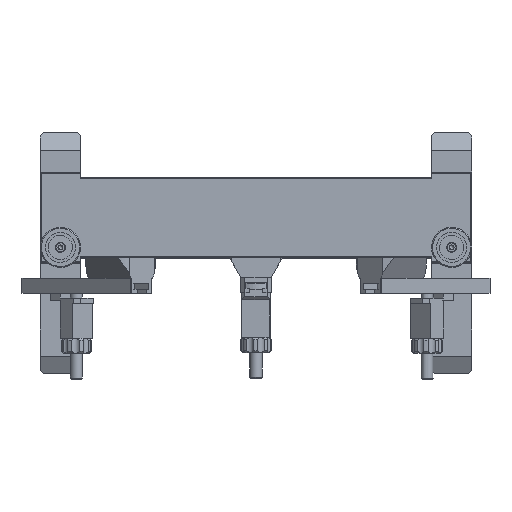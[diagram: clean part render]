
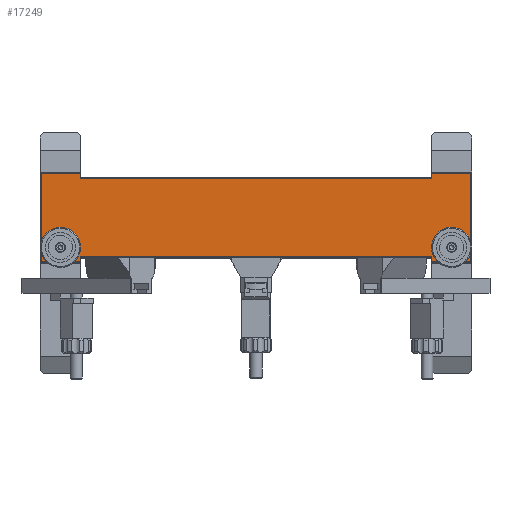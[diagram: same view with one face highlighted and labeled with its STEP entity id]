
A CAD part, top view. The second image highlights one B-rep face of the part: STEP entity #17249.
In plain terms, the highlighted planar face has unit normal (0, 0, 1).
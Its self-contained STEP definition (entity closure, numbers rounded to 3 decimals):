
#1097=LINE($,#29767,#2272);
#1104=LINE($,#29781,#2279);
#1109=LINE($,#29790,#2284);
#1113=LINE($,#29799,#2288);
#1114=LINE($,#29801,#2289);
#1115=LINE($,#29803,#2290);
#1116=LINE($,#29805,#2291);
#1117=LINE($,#29807,#2292);
#1118=LINE($,#29809,#2293);
#1119=LINE($,#29811,#2294);
#1120=LINE($,#29813,#2295);
#1121=LINE($,#29814,#2296);
#2272=VECTOR($,#23470,39.);
#2279=VECTOR($,#23481,39.);
#2284=VECTOR($,#23490,88.);
#2288=VECTOR($,#23498,5.);
#2289=VECTOR($,#23499,350.);
#2290=VECTOR($,#23500,5.);
#2291=VECTOR($,#23501,39.);
#2292=VECTOR($,#23502,88.);
#2293=VECTOR($,#23503,39.);
#2294=VECTOR($,#23504,5.);
#2295=VECTOR($,#23505,350.);
#2296=VECTOR($,#23506,5.);
#3594=FACE_BOUND($,#6231,.T.);
#3595=FACE_BOUND($,#6232,.T.);
#4636=FACE_OUTER_BOUND($,#6230,.T.);
#6230=EDGE_LOOP($,(#14676,#14677,#14678,#14679,#14680,#14681,#14682,#14683,
#14684,#14685,#14686,#14687));
#6231=EDGE_LOOP($,(#14688));
#6232=EDGE_LOOP($,(#14689));
#7395=CIRCLE($,#19075,12.);
#7396=CIRCLE($,#19076,12.);
#8849=VERTEX_POINT($,#29760);
#8851=VERTEX_POINT($,#29765);
#8852=VERTEX_POINT($,#29770);
#8855=VERTEX_POINT($,#29777);
#8861=VERTEX_POINT($,#29798);
#8862=VERTEX_POINT($,#29800);
#8863=VERTEX_POINT($,#29802);
#8864=VERTEX_POINT($,#29804);
#8865=VERTEX_POINT($,#29806);
#8866=VERTEX_POINT($,#29808);
#8867=VERTEX_POINT($,#29810);
#8868=VERTEX_POINT($,#29812);
#8869=VERTEX_POINT($,#29815);
#8870=VERTEX_POINT($,#29817);
#10911=EDGE_CURVE($,#8851,#8849,#1097,.T.);
#10918=EDGE_CURVE($,#8852,#8855,#1104,.T.);
#10923=EDGE_CURVE($,#8849,#8852,#1109,.T.);
#10927=EDGE_CURVE($,#8851,#8861,#1113,.T.);
#10928=EDGE_CURVE($,#8862,#8861,#1114,.T.);
#10929=EDGE_CURVE($,#8862,#8863,#1115,.T.);
#10930=EDGE_CURVE($,#8864,#8863,#1116,.T.);
#10931=EDGE_CURVE($,#8865,#8864,#1117,.T.);
#10932=EDGE_CURVE($,#8866,#8865,#1118,.T.);
#10933=EDGE_CURVE($,#8866,#8867,#1119,.T.);
#10934=EDGE_CURVE($,#8868,#8867,#1120,.T.);
#10935=EDGE_CURVE($,#8868,#8855,#1121,.T.);
#10936=EDGE_CURVE($,#8869,#8869,#7395,.T.);
#10937=EDGE_CURVE($,#8870,#8870,#7396,.T.);
#14676=ORIENTED_EDGE($,*,*,#10918,.F.);
#14677=ORIENTED_EDGE($,*,*,#10923,.F.);
#14678=ORIENTED_EDGE($,*,*,#10911,.F.);
#14679=ORIENTED_EDGE($,*,*,#10927,.T.);
#14680=ORIENTED_EDGE($,*,*,#10928,.F.);
#14681=ORIENTED_EDGE($,*,*,#10929,.T.);
#14682=ORIENTED_EDGE($,*,*,#10930,.F.);
#14683=ORIENTED_EDGE($,*,*,#10931,.F.);
#14684=ORIENTED_EDGE($,*,*,#10932,.F.);
#14685=ORIENTED_EDGE($,*,*,#10933,.T.);
#14686=ORIENTED_EDGE($,*,*,#10934,.F.);
#14687=ORIENTED_EDGE($,*,*,#10935,.T.);
#14688=ORIENTED_EDGE($,*,*,#10936,.T.);
#14689=ORIENTED_EDGE($,*,*,#10937,.T.);
#16268=PLANE($,#19074);
#17249=ADVANCED_FACE($,(#4636,#3594,#3595),#16268,.T.);
#19074=AXIS2_PLACEMENT_3D($,#29797,#23496,#23497);
#19075=AXIS2_PLACEMENT_3D($,#29816,#23507,#23508);
#19076=AXIS2_PLACEMENT_3D($,#29818,#23509,#23510);
#23470=DIRECTION($,(1.,0.,0.));
#23481=DIRECTION($,(-1.,0.,0.));
#23490=DIRECTION($,(0.,-1.,0.));
#23496=DIRECTION('center_axis',(0.,0.,
1.));
#23497=DIRECTION('ref_axis',(0.,-1.,0.));
#23498=DIRECTION($,(0.,-1.,0.));
#23499=DIRECTION($,(1.,0.,0.));
#23500=DIRECTION($,(0.,1.,0.));
#23501=DIRECTION($,(1.,0.,0.));
#23502=DIRECTION($,(0.,1.,0.));
#23503=DIRECTION($,(-1.,0.,0.));
#23504=DIRECTION($,(0.,1.,0.));
#23505=DIRECTION($,(-1.,0.,0.));
#23506=DIRECTION($,(0.,-1.,0.));
#23507=DIRECTION('center_axis',(0.,0.,
-1.));
#23508=DIRECTION('ref_axis',(-1.,0.,0.));
#23509=DIRECTION('center_axis',(0.,0.,
-1.));
#23510=DIRECTION('ref_axis',(-1.,0.,0.));
#29760=CARTESIAN_POINT('',(415.6,135.902,490.));
#29765=CARTESIAN_POINT('',(376.6,135.902,490.));
#29767=CARTESIAN_POINT($,(376.6,135.902,490.));
#29770=CARTESIAN_POINT('',(415.6,47.902,490.));
#29777=CARTESIAN_POINT('',(376.6,47.902,490.));
#29781=CARTESIAN_POINT($,(376.6,47.902,490.));
#29790=CARTESIAN_POINT($,(415.6,114.402,490.));
#29797=CARTESIAN_POINT('Origin',(376.6,136.902,490.));
#29798=CARTESIAN_POINT('',(376.6,130.902,490.));
#29799=CARTESIAN_POINT($,(376.6,136.902,490.));
#29800=CARTESIAN_POINT('',(26.6,130.902,490.));
#29801=CARTESIAN_POINT($,(114.1,130.902,490.));
#29802=CARTESIAN_POINT('',(26.6,135.902,490.));
#29803=CARTESIAN_POINT($,(26.6,46.902,490.));
#29804=CARTESIAN_POINT('',(-12.4,135.902,490.));
#29805=CARTESIAN_POINT($,(26.6,135.902,490.));
#29806=CARTESIAN_POINT('',(-12.4,47.902,490.));
#29807=CARTESIAN_POINT($,(-12.4,69.402,490.));
#29808=CARTESIAN_POINT('',(26.6,47.902,490.));
#29809=CARTESIAN_POINT($,(26.6,47.902,490.));
#29810=CARTESIAN_POINT('',(26.6,52.902,490.));
#29811=CARTESIAN_POINT($,(26.6,46.902,490.));
#29812=CARTESIAN_POINT('',(376.6,52.902,490.));
#29813=CARTESIAN_POINT($,(289.1,52.902,490.));
#29814=CARTESIAN_POINT($,(376.6,136.902,490.));
#29815=CARTESIAN_POINT('',(384.6,61.902,490.));
#29816=CARTESIAN_POINT('Origin',(396.6,61.902,490.));
#29817=CARTESIAN_POINT('',(-5.4,61.902,490.));
#29818=CARTESIAN_POINT('Origin',(6.6,61.902,490.));
